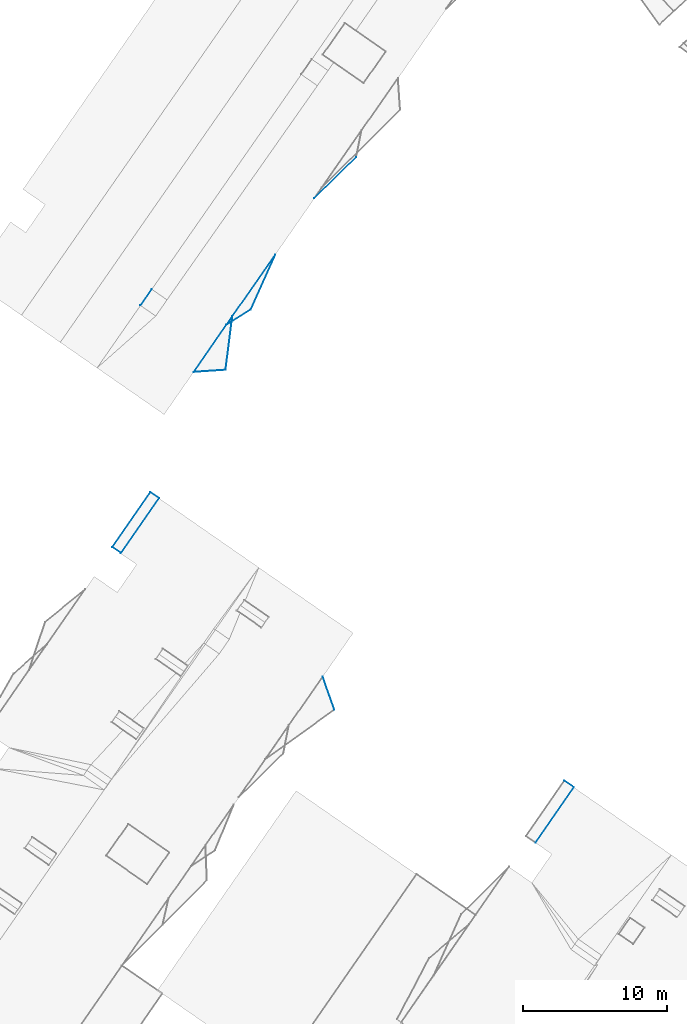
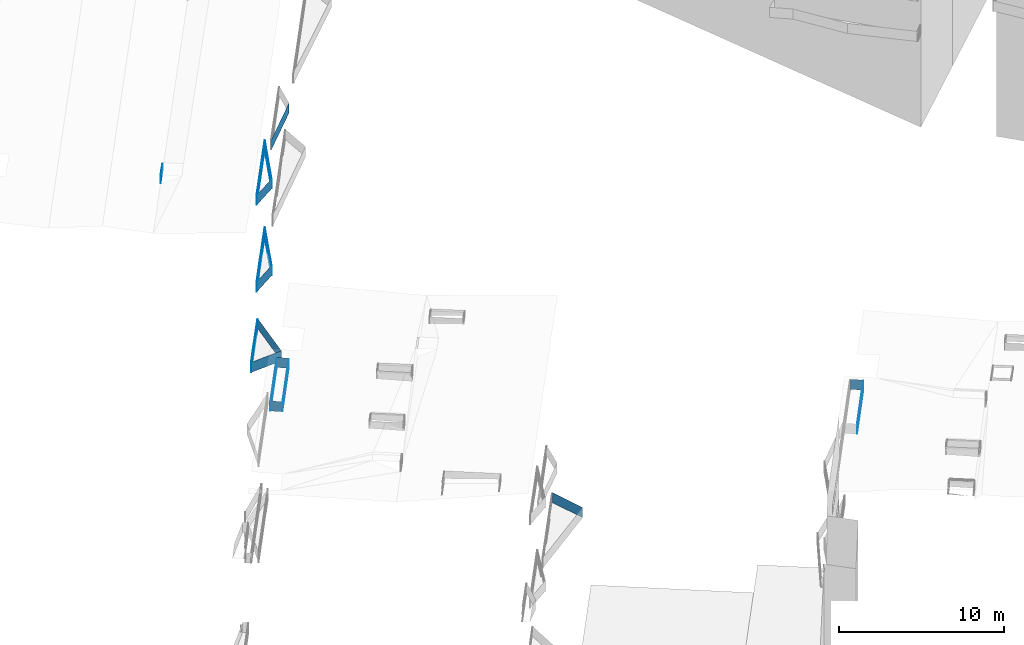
# Not in any storey, part 43 of 136: 41 walls.
"""IFC2X3 building model written with IfcOpenShell, lengths in metres."""

from ifc_helpers import new_model, entity, si_unit, converted_unit, frame, origin, place, context, subcontext, project, spatial, face_set, surface_model, element, save


model = new_model("IFC2X3")

# Units and contexts
model_context = context("Model", 3, precision=1e-05, world=origin())
body_context = subcontext(model_context, "Body", "Model", "MODEL_VIEW")
ifc_project = project(units=[converted_unit("PLANEANGLEUNIT", "DEGREE", entity("IfcRatioMeasure", 0.0174532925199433), si_unit("PLANEANGLEUNIT", "RADIAN"), dimensions=[0, 0, 0, 0, 0, 0, 0]), si_unit("AREAUNIT", "SQUARE_METRE"), si_unit("LENGTHUNIT", "METRE")], contexts=[model_context])

# Site, building
site_placement = place(None, origin())
site = spatial("IfcSite", under=ifc_project, at=site_placement, Name="_site", CompositionType="ELEMENT")
building_1_placement = place(site_placement, origin())
building_1 = spatial("IfcBuilding", under=site, at=building_1_placement, Name="_building", CompositionType="ELEMENT")

# Walls
wall_1_placement = place(building_1_placement, origin())
element("IfcWall", 1, at=wall_1_placement, inside=building_1, Name="Wall", context=body_context, shape_type="SurfaceModel", body=[
    surface_model("IfcFaceBasedSurfaceModel", [(-8.21, 74.97, 48.01), (-10.87, 71.13, 48.01), (-10.87, 71.13, 48.76), (-8.21, 74.97, 48.76)], [face_set([[[0, 1, 2, 3]]])]),
])
for number, where, name in (
    (2, (0.0, 0.0, 0.0), "Wall"),
    (3, (0.0, 0.0, 0.0), "Wall"),
):
    element("IfcWall", number, at=place(building_1_placement, frame(where)), inside=building_1, Name=name, context=body_context, shape_type="SurfaceModel", body=[
        surface_model("IfcFaceBasedSurfaceModel", [(-8.87, 75.43, 48.01), (-8.21, 74.97, 48.01), (-8.21, 74.97, 48.76), (-8.87, 75.43, 48.76)], [face_set([[[0, 1, 2, 3]]])]),
    ])
wall_2_placement = place(building_1_placement, origin())
element("IfcWall", 4, at=wall_2_placement, inside=building_1, Name="Wall", context=body_context, shape_type="SurfaceModel", body=[
    surface_model("IfcFaceBasedSurfaceModel", [(-8.21, 74.97, 48.01), (-10.87, 71.13, 48.01), (-10.87, 71.13, 48.76), (-8.21, 74.97, 48.76)], [face_set([[[0, 1, 2, 3]]])]),
])

# Building
building_2_placement = place(site_placement, origin())
building_2 = spatial("IfcBuilding", under=site, at=building_2_placement, Name="_building", CompositionType="ELEMENT")

# Walls
wall_3_placement = place(building_2_placement, origin())
element("IfcWall", 5, at=wall_3_placement, inside=building_2, Name="Wall", context=body_context, shape_type="SurfaceModel", body=[
    surface_model("IfcFaceBasedSurfaceModel", [(-30.61, 108.09, 50.71), (-32.29, 107.021, 50.71), (-32.29, 107.021, 51.46), (-30.61, 108.09, 51.46)], [face_set([[[0, 1, 2, 3]]])]),
])
wall_4_placement = place(building_2_placement, origin())
element("IfcWall", 6, at=wall_4_placement, inside=building_2, Name="Wall", context=body_context, shape_type="SurfaceModel", body=[
    surface_model("IfcFaceBasedSurfaceModel", [(-31.88, 107.61, 50.71), (-28.9, 111.89, 50.71), (-28.9, 111.89, 51.46), (-31.88, 107.61, 51.46)], [face_set([[[0, 1, 2, 3]]])]),
])
wall_5_placement = place(building_2_placement, origin())
element("IfcWall", 7, at=wall_5_placement, inside=building_2, Name="Wall", context=body_context, shape_type="SurfaceModel", body=[
    surface_model("IfcFaceBasedSurfaceModel", [(-32.29, 107.021, 50.71), (-31.88, 107.61, 50.71), (-31.88, 107.61, 51.46), (-32.29, 107.021, 51.46)], [face_set([[[0, 1, 2, 3]]])]),
])
wall_6_placement = place(building_2_placement, origin())
element("IfcWall", 8, at=wall_6_placement, inside=building_2, Name="Wall", context=body_context, shape_type="SurfaceModel", body=[
    surface_model("IfcFaceBasedSurfaceModel", [(-30.61, 108.09, 50.71), (-32.29, 107.021, 50.71), (-32.29, 107.021, 51.46), (-30.61, 108.09, 51.46)], [face_set([[[0, 1, 2, 3]]])]),
])
wall_7_placement = place(building_2_placement, origin())
element("IfcWall", 9, at=wall_7_placement, inside=building_2, Name="Wall", context=body_context, shape_type="SurfaceModel", body=[
    surface_model("IfcFaceBasedSurfaceModel", [(-32.29, 107.021, 50.71), (-31.88, 107.61, 50.71), (-31.88, 107.61, 51.46), (-32.29, 107.021, 51.46)], [face_set([[[0, 1, 2, 3]]])]),
])
wall_8_placement = place(building_2_placement, origin())
element("IfcWall", 10, at=wall_8_placement, inside=building_2, Name="Wall", context=body_context, shape_type="SurfaceModel", body=[
    surface_model("IfcFaceBasedSurfaceModel", [(-28.9, 111.89, 50.71), (-30.61, 108.09, 50.71), (-30.61, 108.09, 51.46), (-28.9, 111.89, 51.46)], [face_set([[[0, 1, 2, 3]]])]),
])
wall_9_placement = place(building_2_placement, origin())
element("IfcWall", 11, at=wall_9_placement, inside=building_2, Name="Wall", context=body_context, shape_type="SurfaceModel", body=[
    surface_model("IfcFaceBasedSurfaceModel", [(-28.9, 111.89, 44.27), (-30.61, 108.09, 44.27), (-30.61, 108.09, 45.02), (-28.9, 111.89, 45.02)], [face_set([[[0, 1, 2, 3]]])]),
])
wall_10_placement = place(building_2_placement, origin())
element("IfcWall", 12, at=wall_10_placement, inside=building_2, Name="Wall", context=body_context, shape_type="SurfaceModel", body=[
    surface_model("IfcFaceBasedSurfaceModel", [(-31.88, 107.61, 41.08), (-32.35, 103.91, 41.08), (-32.35, 103.91, 41.83), (-31.88, 107.61, 41.83)], [face_set([[[0, 1, 2, 3]]])]),
])
wall_11_placement = place(building_2_placement, origin())
element("IfcWall", 13, at=wall_11_placement, inside=building_2, Name="Wall", context=body_context, shape_type="SurfaceModel", body=[
    surface_model("IfcFaceBasedSurfaceModel", [(-34.56, 103.76, 41.08), (-32.29, 107.021, 41.08), (-32.29, 107.021, 41.83), (-34.56, 103.76, 41.83)], [face_set([[[0, 1, 2, 3]]])]),
])
wall_12_placement = place(building_2_placement, origin())
element("IfcWall", 14, at=wall_12_placement, inside=building_2, Name="Wall", context=body_context, shape_type="SurfaceModel", body=[
    surface_model("IfcFaceBasedSurfaceModel", [(-31.88, 107.61, 41.08), (-32.35, 103.91, 41.08), (-32.35, 103.91, 41.83), (-31.88, 107.61, 41.83)], [face_set([[[0, 1, 2, 3]]])]),
])
wall_13_placement = place(building_2_placement, origin())
element("IfcWall", 15, at=wall_13_placement, inside=building_2, Name="Wall", context=body_context, shape_type="SurfaceModel", body=[
    surface_model("IfcFaceBasedSurfaceModel", [(-34.56, 103.76, 41.08), (-32.29, 107.021, 41.08), (-32.29, 107.021, 41.83), (-34.56, 103.76, 41.83)], [face_set([[[0, 1, 2, 3]]])]),
])
for number, where, name in (
    (16, (0.0, 0.0, 0.0), "Wall"),
    (17, (0.0, 0.0, 0.0), "Wall"),
):
    element("IfcWall", number, at=place(building_2_placement, frame(where)), inside=building_2, Name=name, context=body_context, shape_type="SurfaceModel", body=[
        surface_model("IfcFaceBasedSurfaceModel", [(-23.3, 118.65, 47.36), (-26.19, 115.8, 47.36), (-26.19, 115.8, 48.11), (-23.3, 118.65, 48.11)], [face_set([[[0, 1, 2, 3]]])]),
    ])
wall_14_placement = place(building_2_placement, origin())
element("IfcWall", 18, at=wall_14_placement, inside=building_2, Name="Wall", context=body_context, shape_type="SurfaceModel", body=[
    surface_model("IfcFaceBasedSurfaceModel", [(-28.9, 111.89, 50.71), (-30.61, 108.09, 50.71), (-30.61, 108.09, 51.46), (-28.9, 111.89, 51.46)], [face_set([[[0, 1, 2, 3]]])]),
])
wall_15_placement = place(building_2_placement, origin())
element("IfcWall", 19, at=wall_15_placement, inside=building_2, Name="Wall", context=body_context, shape_type="SurfaceModel", body=[
    surface_model("IfcFaceBasedSurfaceModel", [(-31.88, 107.61, 50.71), (-28.9, 111.89, 50.71), (-28.9, 111.89, 51.46), (-31.88, 107.61, 51.46)], [face_set([[[0, 1, 2, 3]]])]),
])
wall_16_placement = place(building_2_placement, origin())
element("IfcWall", 20, at=wall_16_placement, inside=building_2, Name="Wall", context=body_context, shape_type="SurfaceModel", body=[
    surface_model("IfcFaceBasedSurfaceModel", [(-38.249, 108.369, 54.2), (-37.463, 109.492, 54.2), (-37.463, 109.492, 53.58), (-38.249, 108.369, 53.58)], [face_set([[[0, 1, 2, 3]]])]),
])
wall_17_placement = place(building_2_placement, origin())
element("IfcWall", 21, at=wall_17_placement, inside=building_2, Name="Wall", context=body_context, shape_type="SurfaceModel", body=[
    surface_model("IfcFaceBasedSurfaceModel", [(-30.61, 108.09, 44.27), (-32.29, 107.021, 44.27), (-32.29, 107.021, 45.02), (-30.61, 108.09, 45.02)], [face_set([[[0, 1, 2, 3]]])]),
])
wall_18_placement = place(building_2_placement, origin())
element("IfcWall", 22, at=wall_18_placement, inside=building_2, Name="Wall", context=body_context, shape_type="SurfaceModel", body=[
    surface_model("IfcFaceBasedSurfaceModel", [(-31.88, 107.61, 44.27), (-28.9, 111.89, 44.27), (-28.9, 111.89, 45.02), (-31.88, 107.61, 45.02)], [face_set([[[0, 1, 2, 3]]])]),
])
wall_19_placement = place(building_2_placement, origin())
element("IfcWall", 23, at=wall_19_placement, inside=building_2, Name="Wall", context=body_context, shape_type="SurfaceModel", body=[
    surface_model("IfcFaceBasedSurfaceModel", [(-32.29, 107.021, 44.27), (-31.88, 107.61, 44.27), (-31.88, 107.61, 45.02), (-32.29, 107.021, 45.02)], [face_set([[[0, 1, 2, 3]]])]),
])
wall_20_placement = place(building_2_placement, origin())
element("IfcWall", 24, at=wall_20_placement, inside=building_2, Name="Wall", context=body_context, shape_type="SurfaceModel", body=[
    surface_model("IfcFaceBasedSurfaceModel", [(-30.61, 108.09, 44.27), (-32.29, 107.021, 44.27), (-32.29, 107.021, 45.02), (-30.61, 108.09, 45.02)], [face_set([[[0, 1, 2, 3]]])]),
])
wall_21_placement = place(building_2_placement, origin())
element("IfcWall", 25, at=wall_21_placement, inside=building_2, Name="Wall", context=body_context, shape_type="SurfaceModel", body=[
    surface_model("IfcFaceBasedSurfaceModel", [(-28.9, 111.89, 44.27), (-30.61, 108.09, 44.27), (-30.61, 108.09, 45.02), (-28.9, 111.89, 45.02)], [face_set([[[0, 1, 2, 3]]])]),
])
wall_22_placement = place(building_2_placement, origin())
element("IfcWall", 26, at=wall_22_placement, inside=building_2, Name="Wall", context=body_context, shape_type="SurfaceModel", body=[
    surface_model("IfcFaceBasedSurfaceModel", [(-31.88, 107.61, 44.27), (-28.9, 111.89, 44.27), (-28.9, 111.89, 45.02), (-31.88, 107.61, 45.02)], [face_set([[[0, 1, 2, 3]]])]),
])
wall_23_placement = place(building_2_placement, origin())
element("IfcWall", 27, at=wall_23_placement, inside=building_2, Name="Wall", context=body_context, shape_type="SurfaceModel", body=[
    surface_model("IfcFaceBasedSurfaceModel", [(-32.29, 107.021, 44.27), (-31.88, 107.61, 44.27), (-31.88, 107.61, 45.02), (-32.29, 107.021, 45.02)], [face_set([[[0, 1, 2, 3]]])]),
])
wall_24_placement = place(building_2_placement, origin())
element("IfcWall", 28, at=wall_24_placement, inside=building_2, Name="Wall", context=body_context, shape_type="SurfaceModel", body=[
    surface_model("IfcFaceBasedSurfaceModel", [(-32.35, 103.91, 41.08), (-34.56, 103.76, 41.08), (-34.56, 103.76, 41.83), (-32.35, 103.91, 41.83)], [face_set([[[0, 1, 2, 3]]])]),
])
for number, where, name in (
    (29, (0.0, 0.0, 0.0), "Wall"),
    (30, (0.0, 0.0, 0.0), "Wall"),
):
    element("IfcWall", number, at=place(building_2_placement, frame(where)), inside=building_2, Name=name, context=body_context, shape_type="SurfaceModel", body=[
        surface_model("IfcFaceBasedSurfaceModel", [(-32.29, 107.021, 41.08), (-31.88, 107.61, 41.08), (-31.88, 107.61, 41.83), (-32.29, 107.021, 41.83)], [face_set([[[0, 1, 2, 3]]])]),
    ])
wall_25_placement = place(building_2_placement, origin())
element("IfcWall", 31, at=wall_25_placement, inside=building_2, Name="Wall", context=body_context, shape_type="SurfaceModel", body=[
    surface_model("IfcFaceBasedSurfaceModel", [(-32.35, 103.91, 41.08), (-34.56, 103.76, 41.08), (-34.56, 103.76, 41.83), (-32.35, 103.91, 41.83)], [face_set([[[0, 1, 2, 3]]])]),
])

# Building
building_3_placement = place(site_placement, origin())
building_3 = spatial("IfcBuilding", under=site, at=building_3_placement, Name="_building", CompositionType="ELEMENT")

# Walls
for number, where, name in (
    (32, (0.0, 0.0, 0.0), "Wall"),
    (33, (0.0, 0.0, 0.0), "Wall"),
):
    element("IfcWall", number, at=place(building_3_placement, frame(where)), inside=building_3, Name=name, context=body_context, shape_type="SurfaceModel", body=[
        surface_model("IfcFaceBasedSurfaceModel", [(-25.61, 82.64, 41.1), (-24.81, 80.351, 41.1), (-24.81, 80.351, 41.85), (-25.61, 82.64, 41.85)], [face_set([[[0, 1, 2, 3]]])]),
    ])
for number, where, name in (
    (34, (0.0, 0.0, 0.0), "Wall"),
    (35, (0.0, 0.0, 0.0), "Wall"),
):
    element("IfcWall", number, at=place(building_3_placement, frame(where)), inside=building_3, Name=name, context=body_context, shape_type="SurfaceModel", body=[
        surface_model("IfcFaceBasedSurfaceModel", [(-40.2, 91.63, 47.55), (-37.56, 95.43, 47.55), (-37.56, 95.43, 48.3), (-40.2, 91.63, 48.3)], [face_set([[[0, 1, 2, 3]]])]),
    ])
wall_26_placement = place(building_3_placement, origin())
element("IfcWall", 36, at=wall_26_placement, inside=building_3, Name="Wall", context=body_context, shape_type="SurfaceModel", body=[
    surface_model("IfcFaceBasedSurfaceModel", [(-37.56, 95.43, 47.55), (-36.96, 95.01, 47.55), (-36.96, 95.01, 48.3), (-37.56, 95.43, 48.3)], [face_set([[[0, 1, 2, 3]]])]),
])
wall_27_placement = place(building_3_placement, origin())
element("IfcWall", 37, at=wall_27_placement, inside=building_3, Name="Wall", context=body_context, shape_type="SurfaceModel", body=[
    surface_model("IfcFaceBasedSurfaceModel", [(-39.6, 91.21, 47.55), (-40.2, 91.63, 47.55), (-40.2, 91.63, 48.3), (-39.6, 91.21, 48.3)], [face_set([[[0, 1, 2, 3]]])]),
])
wall_28_placement = place(building_3_placement, origin())
element("IfcWall", 38, at=wall_28_placement, inside=building_3, Name="Wall", context=body_context, shape_type="SurfaceModel", body=[
    surface_model("IfcFaceBasedSurfaceModel", [(-36.96, 95.01, 47.55), (-39.6, 91.21, 47.55), (-39.6, 91.21, 48.3), (-36.96, 95.01, 48.3)], [face_set([[[0, 1, 2, 3]]])]),
])
wall_29_placement = place(building_3_placement, origin())
element("IfcWall", 39, at=wall_29_placement, inside=building_3, Name="Wall", context=body_context, shape_type="SurfaceModel", body=[
    surface_model("IfcFaceBasedSurfaceModel", [(-37.56, 95.43, 47.55), (-36.96, 95.01, 47.55), (-36.96, 95.01, 48.3), (-37.56, 95.43, 48.3)], [face_set([[[0, 1, 2, 3]]])]),
])
wall_30_placement = place(building_3_placement, origin())
element("IfcWall", 40, at=wall_30_placement, inside=building_3, Name="Wall", context=body_context, shape_type="SurfaceModel", body=[
    surface_model("IfcFaceBasedSurfaceModel", [(-39.6, 91.21, 47.55), (-40.2, 91.63, 47.55), (-40.2, 91.63, 48.3), (-39.6, 91.21, 48.3)], [face_set([[[0, 1, 2, 3]]])]),
])
wall_31_placement = place(building_3_placement, origin())
element("IfcWall", 41, at=wall_31_placement, inside=building_3, Name="Wall", context=body_context, shape_type="SurfaceModel", body=[
    surface_model("IfcFaceBasedSurfaceModel", [(-36.96, 95.01, 47.55), (-39.6, 91.21, 47.55), (-39.6, 91.21, 48.3), (-36.96, 95.01, 48.3)], [face_set([[[0, 1, 2, 3]]])]),
])

save(model, "model.ifc")
